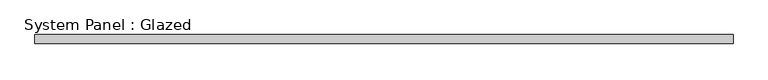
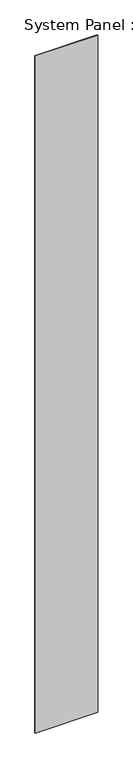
"""IFC4 building model written with IfcOpenShell, lengths in millimetres: plate geometry, System Panel : Glazed."""

from ifc_helpers import new_model, si_unit, origin, origin_with_axes, place, context, project, spatial, polyline, outline, extrude, source, transform, mapped, element, save


def system_panel_glazed_23f30888(model_context):
    return source(origin(), model_context, "Body", "SweptSolid", [
        extrude(outline(polyline([(975.0, 24.5), (-975.0, 24.5), (-975.0, 49.5), (975.0, 49.5), (975.0, 24.5)])), origin_with_axes(), (0.0, 0.0, 1.0), 22417.4691077),
    ])


if __name__ == "__main__":
    model = new_model("IFC4")
    model_context = context("Model", 3, world=origin())
    ifc_project = project(units=[si_unit("LENGTHUNIT", "METRE", prefix="MILLI")], contexts=[model_context])
    site = spatial("IfcSite", under=ifc_project)
    building = spatial("IfcBuilding", under=site)
    placement = place(None, origin())
    system_panel_glazed_shape = system_panel_glazed_23f30888(model_context)
    element("IfcPlate", 1, ObjectType="System Panel : Glazed", at=placement, inside=building, context=model_context, shape_type="MappedRepresentation", body=[
        mapped(system_panel_glazed_shape, transform((0.0, 0.0, 0.0), x_axis=(1.0, 0.0, 0.0), y_axis=(0.0, 1.0, 0.0), z_axis=(0.0, 0.0, 1.0))),
    ])
    save(model, "model.ifc")
